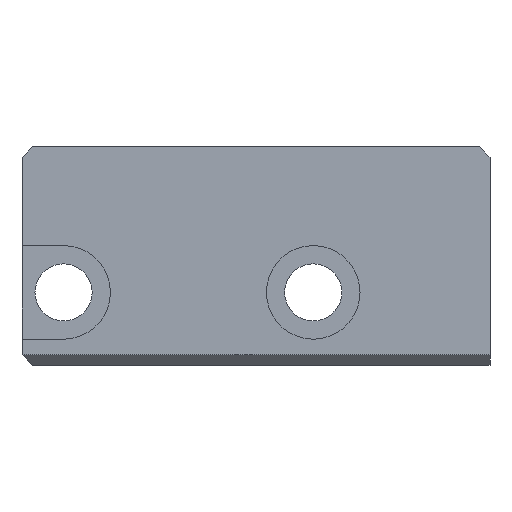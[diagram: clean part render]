
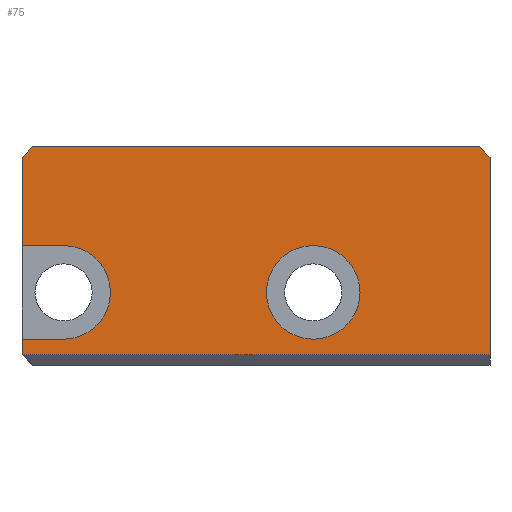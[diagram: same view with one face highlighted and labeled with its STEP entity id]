
A CAD part, front view. The second image highlights one B-rep face of the part: STEP entity #75.
In plain terms, the highlighted planar face has unit normal (0, -1, 0).
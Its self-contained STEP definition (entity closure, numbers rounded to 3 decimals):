
#75=ADVANCED_FACE('',(#305,#307),#309,.F.);
#305=FACE_BOUND('',#306,.T.);
#306=EDGE_LOOP('',(#500,#501,#502,#503,#504,#505,#506,#507,#508,#509));
#307=FACE_BOUND('',#308,.T.);
#308=EDGE_LOOP('',(#510));
#309=PLANE('',#310);
#310=AXIS2_PLACEMENT_3D('',#311,#312,#313);
#311=CARTESIAN_POINT('',(-21.,0.,-42.));
#312=DIRECTION('',(0.,1.,0.));
#313=DIRECTION('',(0.,0.,1.));
#500=ORIENTED_EDGE('',*,*,#622,.T.);
#501=ORIENTED_EDGE('',*,*,#623,.T.);
#502=ORIENTED_EDGE('',*,*,#617,.F.);
#503=ORIENTED_EDGE('',*,*,#624,.F.);
#504=ORIENTED_EDGE('',*,*,#620,.F.);
#505=ORIENTED_EDGE('',*,*,#625,.F.);
#506=ORIENTED_EDGE('',*,*,#614,.F.);
#507=ORIENTED_EDGE('',*,*,#626,.F.);
#508=ORIENTED_EDGE('',*,*,#627,.T.);
#509=ORIENTED_EDGE('',*,*,#628,.T.);
#510=ORIENTED_EDGE('',*,*,#629,.F.);
#614=EDGE_CURVE('',#685,#687,#688,.T.);
#617=EDGE_CURVE('',#690,#692,#693,.T.);
#620=EDGE_CURVE('',#695,#697,#698,.F.);
#622=EDGE_CURVE('',#700,#701,#702,.T.);
#623=EDGE_CURVE('',#701,#692,#703,.F.);
#624=EDGE_CURVE('',#697,#690,#704,.F.);
#625=EDGE_CURVE('',#687,#695,#705,.F.);
#626=EDGE_CURVE('',#706,#685,#707,.T.);
#627=EDGE_CURVE('',#706,#708,#709,.T.);
#628=EDGE_CURVE('',#708,#700,#710,.F.);
#629=EDGE_CURVE('',#711,#711,#712,.F.);
#685=VERTEX_POINT('',#810);
#687=VERTEX_POINT('',#814);
#688=LINE('',#815,#816);
#690=VERTEX_POINT('',#821);
#692=VERTEX_POINT('',#825);
#693=LINE('',#826,#827);
#695=VERTEX_POINT('',#832);
#697=VERTEX_POINT('',#836);
#698=CIRCLE('',#837,9.);
#700=VERTEX_POINT('',#844);
#701=VERTEX_POINT('',#845);
#702=LINE('',#846,#847);
#703=LINE('',#849,#850);
#704=LINE('',#852,#853);
#705=LINE('',#855,#856);
#706=VERTEX_POINT('',#858);
#707=LINE('',#859,#860);
#708=VERTEX_POINT('',#862);
#709=LINE('',#863,#864);
#710=LINE('',#866,#867);
#711=VERTEX_POINT('',#869);
#712=CIRCLE('',#870,9.);
#810=CARTESIAN_POINT('',(-21.,0.,-40.));
#814=CARTESIAN_POINT('',(-21.,0.,-37.));
#815=CARTESIAN_POINT('',(-21.,0.,-40.));
#816=VECTOR('',#817,1.);
#817=DIRECTION('',(0.,0.,1.));
#821=CARTESIAN_POINT('',(-21.,0.,-19.));
#825=CARTESIAN_POINT('',(-21.,0.,-2.));
#826=CARTESIAN_POINT('',(-21.,0.,-19.));
#827=VECTOR('',#828,1.);
#828=DIRECTION('',(0.,0.,1.));
#832=CARTESIAN_POINT('',(-13.,0.,-37.));
#836=CARTESIAN_POINT('',(-13.,0.,-19.));
#837=AXIS2_PLACEMENT_3D('',#838,#839,#840);
#838=CARTESIAN_POINT('',(-13.,0.,-28.));
#839=DIRECTION('',(0.,1.,0.));
#840=DIRECTION('',(0.,0.,1.));
#844=CARTESIAN_POINT('',(67.,0.,0.));
#845=CARTESIAN_POINT('',(-19.,0.,0.));
#846=CARTESIAN_POINT('',(67.,0.,0.));
#847=VECTOR('',#848,1.);
#848=DIRECTION('',(-1.,0.,0.));
#849=CARTESIAN_POINT('',(-21.,0.,-2.));
#850=VECTOR('',#851,1.);
#851=DIRECTION('',(0.707,0.,0.707));
#852=CARTESIAN_POINT('',(-21.,0.,-19.));
#853=VECTOR('',#854,1.);
#854=DIRECTION('',(1.,0.,0.));
#855=CARTESIAN_POINT('',(-13.,0.,-37.));
#856=VECTOR('',#857,1.);
#857=DIRECTION('',(-1.,0.,0.));
#858=CARTESIAN_POINT('',(69.,0.,-40.));
#859=CARTESIAN_POINT('',(69.,0.,-40.));
#860=VECTOR('',#861,1.);
#861=DIRECTION('',(-1.,0.,0.));
#862=CARTESIAN_POINT('',(69.,0.,-2.));
#863=CARTESIAN_POINT('',(69.,0.,-40.));
#864=VECTOR('',#865,1.);
#865=DIRECTION('',(0.,0.,1.));
#866=CARTESIAN_POINT('',(67.,0.,0.));
#867=VECTOR('',#868,1.);
#868=DIRECTION('',(0.707,0.,-0.707));
#869=CARTESIAN_POINT('',(44.,0.,-28.));
#870=AXIS2_PLACEMENT_3D('',#871,#872,#873);
#871=CARTESIAN_POINT('',(35.,0.,-28.));
#872=DIRECTION('',(0.,1.,0.));
#873=DIRECTION('',(1.,0.,0.));
